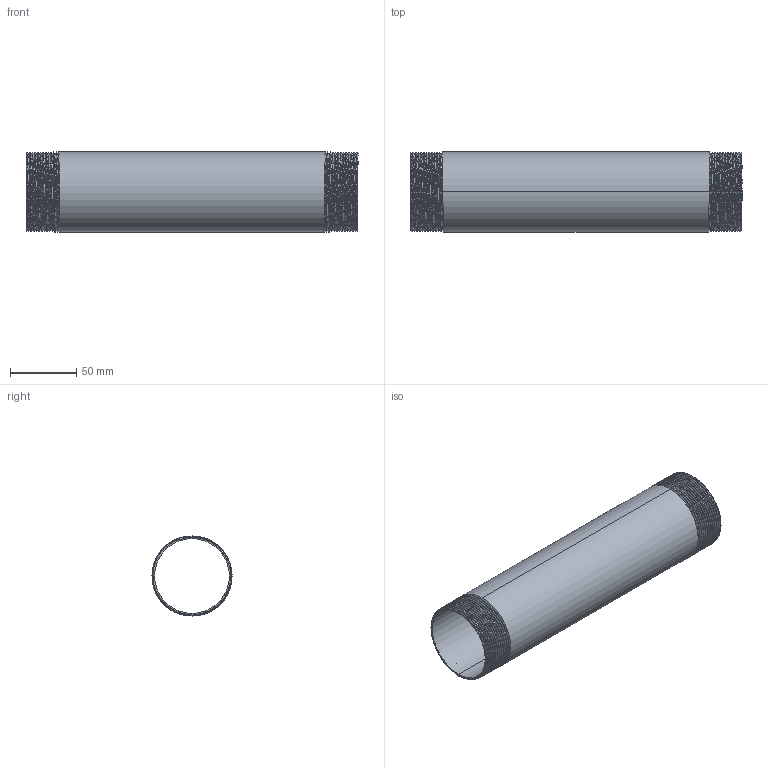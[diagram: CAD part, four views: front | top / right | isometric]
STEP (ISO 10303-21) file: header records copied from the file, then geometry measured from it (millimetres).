
FILE_DESCRIPTION (( 'STEP AP203' ), '1' );
FILE_NAME ('3D_R210_2x250_17185939.STEP', '2024-08-16T14:17:36', ( '' ), ( '' ), 'SwSTEP 2.0', 'SolidWorks 2024', '' );
FILE_SCHEMA (( 'CONFIG_CONTROL_DESIGN' ));
Length unit declared in the file: millimetre
Products named in the file (1): 3D_R210_2x250_17185939
Bounding box: 250 x 60.28 x 60.3 mm (x, y, z)
Volume: 85595.8 mm3; surface area: 97124.9 mm2
Topology: 1 solids, 1 shells, 68 faces, 192 edges, 126 vertices
Faces by surface type: cone 54, bspline 6, cylinder 4, plane 4
Entity records: 12689 total; most frequent: CARTESIAN_POINT 11103, ORIENTED_EDGE 384, DIRECTION 212, EDGE_CURVE 192, VERTEX_POINT 126, B_SPLINE_CURVE_WITH_KNOTS 110, AXIS2_PLACEMENT_3D 75, EDGE_LOOP 70
